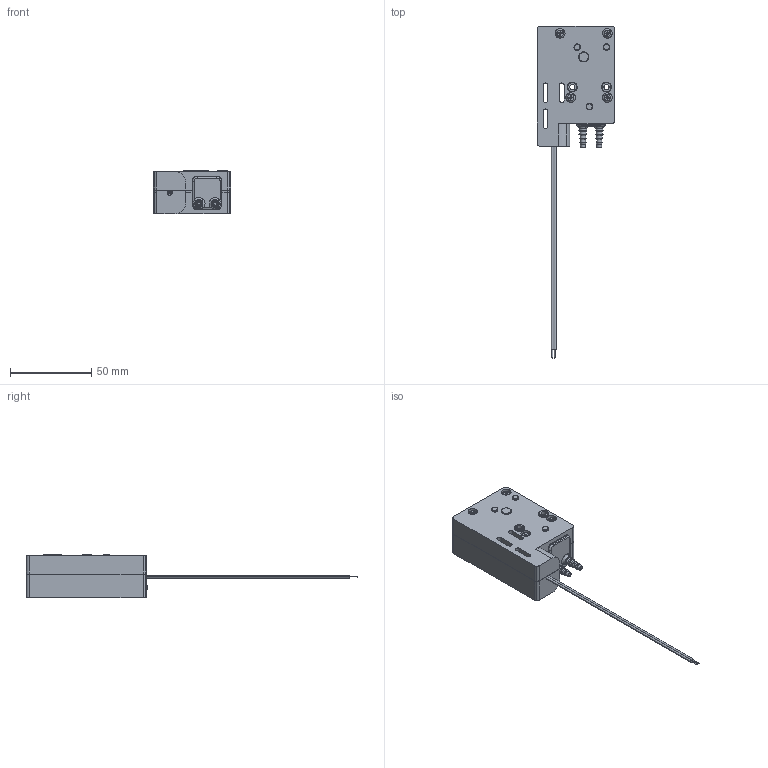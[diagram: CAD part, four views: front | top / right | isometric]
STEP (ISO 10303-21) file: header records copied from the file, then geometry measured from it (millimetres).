
FILE_DESCRIPTION (( 'STEP AP214' ), '1' );
FILE_NAME ('RP-GIIxxx-.STEP', '2021-06-15T06:13:22', ( '' ), ( '' ), 'SwSTEP 2.0', 'SolidWorks 2021', '' );
FILE_SCHEMA (( 'AUTOMOTIVE_DESIGN' ));
Length unit declared in the file: millimetre
Products named in the file (6): RPG203W P 1-9 SCREW 3X18; WEB用配線; WEB—pCASE BASE; WEB—pJOINER; WEB—pCASE CAV; RP-GIIxxx-
Assembly tree (8 placements, depth 2):
  RP-GIIxxx-
    RPG203W P 1-9 SCREW 3X18  x4
    WEB—pCASE BASE
    WEB—pCASE CAV
    WEB—pJOINER
    WEB用配線
Bounding box: 47.5 x 204 x 27 mm (x, y, z)
Volume: 77839.9 mm3; surface area: 28517.8 mm2
Topology: 9 solids, 25 shells, 650 faces, 1627 edges, 1061 vertices
Faces by surface type: cylinder 320, plane 252, torus 41, cone 30, bspline 7
Entity records: 16735 total; most frequent: CARTESIAN_POINT 3179, DIRECTION 2988, ORIENTED_EDGE 2666, EDGE_CURVE 1333, AXIS2_PLACEMENT_3D 1164, VERTEX_POINT 869, VECTOR 660, LINE 660
